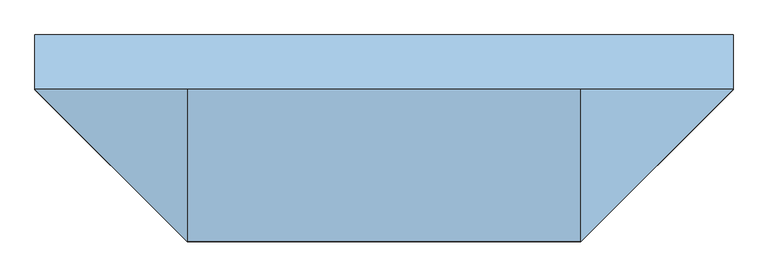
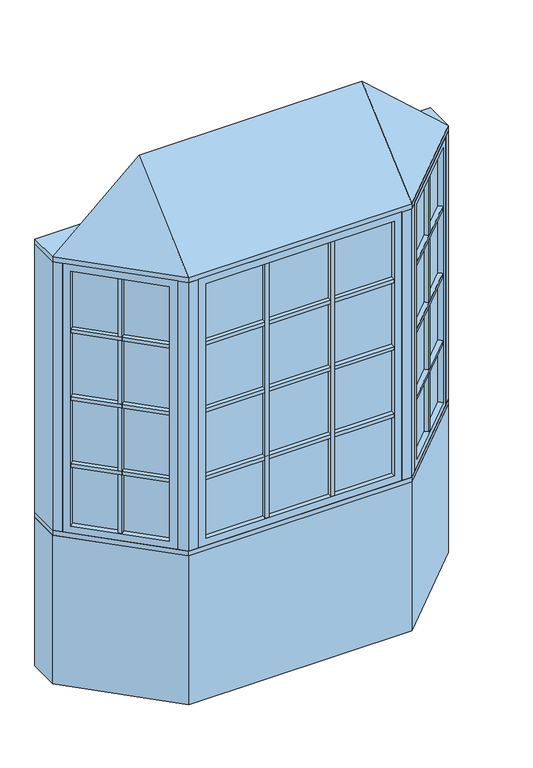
"""IFC4 building model written with IfcOpenShell, lengths in millimetres: window geometry, Pollard_Windows_Tudor Casement Bows and Bays : AML-BAY 45 AFR0614-08-500_GC."""

from ifc_helpers import new_model, si_unit, frame, origin, origin_with_axes, place, context, project, spatial, polyline, outline, extrude, faceted_brep, source, transform, mapped, element, save


def window_5c7470a3(model_context):
    return source(origin(), model_context, "Body", "SolidModel", [
        extrude(outline(polyline([(609.3614193, -437.1108753), (593.8050701, -421.5545261), (901.616171, -113.7434252), (917.1725202, -129.2997743), (609.3614193, -437.1108753)])), frame((0.0, 0.0, 1490.998), z_axis=(0.0, 0.0, 1.0), x_axis=(1.0, 0.0, 0.0)), (0.0, 0.0, 1.0), 18.0),
        extrude(outline(polyline([(590.2129677, -417.9624236), (574.6566185, -402.4060744), (882.4677194, -94.5949735), (898.0240686, -110.1513227), (590.2129677, -417.9624236)])), frame((0.0, 0.0, 1490.998), z_axis=(0.0, 0.0, 1.0), x_axis=(1.0, 0.0, 0.0)), (0.0, 0.0, 1.0), 18.0),
        extrude(outline(polyline([(609.3614193, -437.1108753), (593.8050701, -421.5545261), (901.616171, -113.7434252), (917.1725202, -129.2997743), (609.3614193, -437.1108753)])), frame((0.0, 0.0, 1140.998), z_axis=(0.0, 0.0, 1.0), x_axis=(1.0, 0.0, 0.0)), (0.0, 0.0, 1.0), 18.0),
        extrude(outline(polyline([(590.2129677, -417.9624236), (574.6566185, -402.4060744), (882.4677194, -94.5949735), (898.0240686, -110.1513227), (590.2129677, -417.9624236)])), frame((0.0, 0.0, 1140.998), z_axis=(0.0, 0.0, 1.0), x_axis=(1.0, 0.0, 0.0)), (0.0, 0.0, 1.0), 18.0),
        extrude(outline(polyline([(609.3614193, -437.1108753), (593.8050701, -421.5545261), (901.616171, -113.7434252), (917.1725202, -129.2997743), (609.3614193, -437.1108753)])), frame((0.0, 0.0, 1490.998), z_axis=(0.0, 0.0, 1.0), x_axis=(1.0, 0.0, 0.0)), (0.0, 0.0, 1.0), 18.0),
        extrude(outline(polyline([(590.2129677, -417.9624236), (574.6566185, -402.4060744), (882.4677194, -94.5949735), (898.0240686, -110.1513227), (590.2129677, -417.9624236)])), frame((0.0, 0.0, 1490.998), z_axis=(0.0, 0.0, 1.0), x_axis=(1.0, 0.0, 0.0)), (0.0, 0.0, 1.0), 18.0),
        extrude(outline(polyline([(609.3614193, -437.1108753), (593.8050701, -421.5545261), (901.616171, -113.7434252), (917.1725202, -129.2997743), (609.3614193, -437.1108753)])), frame((0.0, 0.0, 1490.998), z_axis=(0.0, 0.0, 1.0), x_axis=(1.0, 0.0, 0.0)), (0.0, 0.0, 1.0), 18.0),
        extrude(outline(polyline([(590.2129677, -417.9624236), (574.6566185, -402.4060744), (882.4677194, -94.5949735), (898.0240686, -110.1513227), (590.2129677, -417.9624236)])), frame((0.0, 0.0, 1490.998), z_axis=(0.0, 0.0, 1.0), x_axis=(1.0, 0.0, 0.0)), (0.0, 0.0, 1.0), 18.0),
        extrude(outline(polyline([(609.3614193, -437.1108753), (593.8050701, -421.5545261), (901.616171, -113.7434252), (917.1725202, -129.2997743), (609.3614193, -437.1108753)])), frame((0.0, 0.0, 1840.998), z_axis=(0.0, 0.0, 1.0), x_axis=(1.0, 0.0, 0.0)), (0.0, 0.0, 1.0), 18.0),
        extrude(outline(polyline([(590.2129677, -417.9624236), (574.6566185, -402.4060744), (882.4677194, -94.5949735), (898.0240686, -110.1513227), (590.2129677, -417.9624236)])), frame((0.0, 0.0, 1840.998), z_axis=(0.0, 0.0, 1.0), x_axis=(1.0, 0.0, 0.0)), (0.0, 0.0, 1.0), 18.0),
        extrude(outline(polyline([(754.0745816, -261.2850146), (769.6309308, -276.8413638), (756.9030087, -289.5692858), (741.3466595, -274.0129366), (754.0745816, -261.2850146)])), frame((0.0, 0.0, 835.8628), z_axis=(0.0, 0.0, 1.0), x_axis=(1.0, 0.0, 0.0)), (0.0, 0.0, 1.0), 1328.2704),
        extrude(outline(polyline([(750.4824791, -257.6929121), (737.7545571, -270.4208342), (722.1982079, -254.864485), (734.92613, -242.1365629), (750.4824791, -257.6929121)])), frame((0.0, 0.0, 835.8628), z_axis=(0.0, 0.0, 1.0), x_axis=(1.0, 0.0, 0.0)), (0.0, 0.0, 1.0), 1328.2704),
        extrude(outline(polyline([(910.5964271, -104.763169), (584.824814, -430.5347822), (581.2327115, -426.9426797), (907.0043247, -101.1710666), (910.5964271, -104.763169)])), frame((0.0, 0.0, 823.1628), z_axis=(0.0, 0.0, 1.0), x_axis=(1.0, 0.0, 0.0)), (0.0, 0.0, 1.0), 1353.6704),
        faceted_brep([(901.616171, -113.7434252, 835.8628), (919.5766833, -131.7039374, 835.8628), (919.5766833, -131.7039374, 2164.1332), (901.616171, -113.7434252, 2164.1332), (907.0043247, -101.1710666, 823.1628), (910.5964271, -104.763169, 823.1628), (910.5964271, -104.763169, 2176.8332), (907.0043247, -101.1710666, 2176.8332), (880.0635563, -92.1908105, 835.8628), (898.0240686, -110.1513227, 835.8628), (898.0240686, -110.1513227, 2164.1332), (880.0635563, -92.1908105, 2164.1332), (944.9369265, -106.3436941, 799.998), (905.4237996, -66.8305672, 799.998), (905.4237996, -66.8305672, 2199.998), (944.9369265, -106.3436941, 2199.998), (611.7655823, -439.5150383, 2164.1332), (593.8050701, -421.5545261, 2164.1332), (584.824814, -430.5347822, 2176.8332), (581.2327115, -426.9426797, 2176.8332), (590.2129677, -417.9624236, 2164.1332), (572.2524554, -400.0019114, 2164.1332), (546.8922121, -425.3621547, 2199.998), (586.4053391, -464.8752816, 2199.998), (611.7655823, -439.5150383, 835.8628), (593.8050701, -421.5545261, 835.8628), (584.824814, -430.5347822, 823.1628), (581.2327115, -426.9426797, 823.1628), (590.2129677, -417.9624236, 835.8628), (572.2524554, -400.0019114, 835.8628), (546.8922121, -425.3621547, 799.998), (586.4053391, -464.8752816, 799.998)], [[[0, 1, 2, 3]], [[4, 5, 6, 7]], [[8, 9, 10, 11]], [[12, 13, 14, 15]], [[3, 2, 16, 17]], [[7, 6, 18, 19]], [[11, 10, 20, 21]], [[15, 14, 22, 23]], [[17, 16, 24, 25]], [[19, 18, 26, 27]], [[21, 20, 28, 29]], [[23, 22, 30, 31]], [[25, 24, 1, 0]], [[5, 26, 18, 6], [3, 17, 25, 0]], [[27, 26, 5, 4]], [[7, 19, 27, 4], [9, 28, 20, 10]], [[29, 28, 9, 8]], [[13, 30, 22, 14], [11, 21, 29, 8]], [[31, 30, 13, 12]], [[15, 23, 31, 12], [1, 24, 16, 2]]]),
        extrude(outline(polyline([(171.2952, -474.8306207), (171.2952, -496.8306207), (153.2952, -496.8306207), (153.2952, -474.8306207), (171.2952, -474.8306207)])), frame((0.0, 0.0, 835.8628), z_axis=(0.0, 0.0, 1.0), x_axis=(1.0, 0.0, 0.0)), (0.0, 0.0, 1.0), 1328.2704),
        extrude(outline(polyline([(171.2952, -469.7506207), (153.2952, -469.7506207), (153.2952, -447.7506207), (171.2952, -447.7506207), (171.2952, -469.7506207)])), frame((0.0, 0.0, 835.8628), z_axis=(0.0, 0.0, 1.0), x_axis=(1.0, 0.0, 0.0)), (0.0, 0.0, 1.0), 1328.2704),
        extrude(outline(polyline([(-153.2952, -474.8306207), (-153.2952, -496.8306207), (-171.2952, -496.8306207), (-171.2952, -474.8306207), (-153.2952, -474.8306207)])), frame((0.0, 0.0, 835.8628), z_axis=(0.0, 0.0, 1.0), x_axis=(1.0, 0.0, 0.0)), (0.0, 0.0, 1.0), 1328.2704),
        extrude(outline(polyline([(-153.2952, -469.7506207), (-171.2952, -469.7506207), (-171.2952, -447.7506207), (-153.2952, -447.7506207), (-153.2952, -469.7506207)])), frame((0.0, 0.0, 835.8628), z_axis=(0.0, 0.0, 1.0), x_axis=(1.0, 0.0, 0.0)), (0.0, 0.0, 1.0), 1328.2704),
        extrude(outline(polyline([(-465.1852, -496.8306207), (-465.1852, -474.8306207), (465.1852, -474.8306207), (465.1852, -496.8306207), (-465.1852, -496.8306207)])), frame((0.0, 0.0, 1140.998), z_axis=(0.0, 0.0, 1.0), x_axis=(1.0, 0.0, 0.0)), (0.0, 0.0, 1.0), 18.0),
        extrude(outline(polyline([(-465.1852, -469.7506207), (-465.1852, -447.7506207), (465.1852, -447.7506207), (465.1852, -469.7506207), (-465.1852, -469.7506207)])), frame((0.0, 0.0, 1140.998), z_axis=(0.0, 0.0, 1.0), x_axis=(1.0, 0.0, 0.0)), (0.0, 0.0, 1.0), 18.0),
        extrude(outline(polyline([(-465.1852, -496.8306207), (-465.1852, -474.8306207), (465.1852, -474.8306207), (465.1852, -496.8306207), (-465.1852, -496.8306207)])), frame((0.0, 0.0, 1490.998), z_axis=(0.0, 0.0, 1.0), x_axis=(1.0, 0.0, 0.0)), (0.0, 0.0, 1.0), 18.0),
        extrude(outline(polyline([(-465.1852, -469.7506207), (-465.1852, -447.7506207), (465.1852, -447.7506207), (465.1852, -469.7506207), (-465.1852, -469.7506207)])), frame((0.0, 0.0, 1490.998), z_axis=(0.0, 0.0, 1.0), x_axis=(1.0, 0.0, 0.0)), (0.0, 0.0, 1.0), 18.0),
        extrude(outline(polyline([(-465.1852, -496.8306207), (-465.1852, -474.8306207), (465.1852, -474.8306207), (465.1852, -496.8306207), (-465.1852, -496.8306207)])), frame((0.0, 0.0, 1490.998), z_axis=(0.0, 0.0, 1.0), x_axis=(1.0, 0.0, 0.0)), (0.0, 0.0, 1.0), 18.0),
        extrude(outline(polyline([(-465.1852, -469.7506207), (-465.1852, -447.7506207), (465.1852, -447.7506207), (465.1852, -469.7506207), (-465.1852, -469.7506207)])), frame((0.0, 0.0, 1490.998), z_axis=(0.0, 0.0, 1.0), x_axis=(1.0, 0.0, 0.0)), (0.0, 0.0, 1.0), 18.0),
        extrude(outline(polyline([(-465.1852, -496.8306207), (-465.1852, -474.8306207), (465.1852, -474.8306207), (465.1852, -496.8306207), (-465.1852, -496.8306207)])), frame((0.0, 0.0, 1490.998), z_axis=(0.0, 0.0, 1.0), x_axis=(1.0, 0.0, 0.0)), (0.0, 0.0, 1.0), 18.0),
        extrude(outline(polyline([(-465.1852, -469.7506207), (-465.1852, -447.7506207), (465.1852, -447.7506207), (465.1852, -469.7506207), (-465.1852, -469.7506207)])), frame((0.0, 0.0, 1490.998), z_axis=(0.0, 0.0, 1.0), x_axis=(1.0, 0.0, 0.0)), (0.0, 0.0, 1.0), 18.0),
        extrude(outline(polyline([(-917.1725202, -129.2997743), (-901.616171, -113.7434252), (-593.8050701, -421.5545261), (-609.3614193, -437.1108753), (-917.1725202, -129.2997743)])), frame((0.0, 0.0, 1140.998), z_axis=(0.0, 0.0, 1.0), x_axis=(1.0, 0.0, 0.0)), (0.0, 0.0, 1.0), 18.0),
        extrude(outline(polyline([(-898.0240686, -110.1513227), (-882.4677194, -94.5949735), (-574.6566185, -402.4060744), (-590.2129677, -417.9624236), (-898.0240686, -110.1513227)])), frame((0.0, 0.0, 1140.998), z_axis=(0.0, 0.0, 1.0), x_axis=(1.0, 0.0, 0.0)), (0.0, 0.0, 1.0), 18.0),
        extrude(outline(polyline([(-917.1725202, -129.2997743), (-901.616171, -113.7434252), (-593.8050701, -421.5545261), (-609.3614193, -437.1108753), (-917.1725202, -129.2997743)])), frame((0.0, 0.0, 1490.998), z_axis=(0.0, 0.0, 1.0), x_axis=(1.0, 0.0, 0.0)), (0.0, 0.0, 1.0), 18.0),
        extrude(outline(polyline([(-898.0240686, -110.1513227), (-882.4677194, -94.5949735), (-574.6566185, -402.4060744), (-590.2129677, -417.9624236), (-898.0240686, -110.1513227)])), frame((0.0, 0.0, 1490.998), z_axis=(0.0, 0.0, 1.0), x_axis=(1.0, 0.0, 0.0)), (0.0, 0.0, 1.0), 18.0),
        extrude(outline(polyline([(-917.1725202, -129.2997743), (-901.616171, -113.7434252), (-593.8050701, -421.5545261), (-609.3614193, -437.1108753), (-917.1725202, -129.2997743)])), frame((0.0, 0.0, 1490.998), z_axis=(0.0, 0.0, 1.0), x_axis=(1.0, 0.0, 0.0)), (0.0, 0.0, 1.0), 18.0),
        extrude(outline(polyline([(-898.0240686, -110.1513227), (-882.4677194, -94.5949735), (-574.6566185, -402.4060744), (-590.2129677, -417.9624236), (-898.0240686, -110.1513227)])), frame((0.0, 0.0, 1490.998), z_axis=(0.0, 0.0, 1.0), x_axis=(1.0, 0.0, 0.0)), (0.0, 0.0, 1.0), 18.0),
        extrude(outline(polyline([(-917.1725202, -129.2997743), (-901.616171, -113.7434252), (-593.8050701, -421.5545261), (-609.3614193, -437.1108753), (-917.1725202, -129.2997743)])), frame((0.0, 0.0, 1490.998), z_axis=(0.0, 0.0, 1.0), x_axis=(1.0, 0.0, 0.0)), (0.0, 0.0, 1.0), 18.0),
        extrude(outline(polyline([(-898.0240686, -110.1513227), (-882.4677194, -94.5949735), (-574.6566185, -402.4060744), (-590.2129677, -417.9624236), (-898.0240686, -110.1513227)])), frame((0.0, 0.0, 1490.998), z_axis=(0.0, 0.0, 1.0), x_axis=(1.0, 0.0, 0.0)), (0.0, 0.0, 1.0), 18.0),
        extrude(outline(polyline([(-917.1725202, -129.2997743), (-901.616171, -113.7434252), (-593.8050701, -421.5545261), (-609.3614193, -437.1108753), (-917.1725202, -129.2997743)])), frame((0.0, 0.0, 1840.998), z_axis=(0.0, 0.0, 1.0), x_axis=(1.0, 0.0, 0.0)), (0.0, 0.0, 1.0), 18.0),
        extrude(outline(polyline([(-898.0240686, -110.1513227), (-882.4677194, -94.5949735), (-574.6566185, -402.4060744), (-590.2129677, -417.9624236), (-898.0240686, -110.1513227)])), frame((0.0, 0.0, 1840.998), z_axis=(0.0, 0.0, 1.0), x_axis=(1.0, 0.0, 0.0)), (0.0, 0.0, 1.0), 18.0),
        extrude(outline(polyline([(-465.1852, -496.8306207), (-465.1852, -474.8306207), (465.1852, -474.8306207), (465.1852, -496.8306207), (-465.1852, -496.8306207)])), frame((0.0, 0.0, 1840.998), z_axis=(0.0, 0.0, 1.0), x_axis=(1.0, 0.0, 0.0)), (0.0, 0.0, 1.0), 18.0),
        extrude(outline(polyline([(-465.1852, -469.7506207), (-465.1852, -447.7506207), (465.1852, -447.7506207), (465.1852, -469.7506207), (-465.1852, -469.7506207)])), frame((0.0, 0.0, 1840.998), z_axis=(0.0, 0.0, 1.0), x_axis=(1.0, 0.0, 0.0)), (0.0, 0.0, 1.0), 18.0),
        extrude(outline(polyline([(-741.3466595, -274.0129366), (-756.9030087, -289.5692858), (-769.6309308, -276.8413638), (-754.0745816, -261.2850146), (-741.3466595, -274.0129366)])), frame((0.0, 0.0, 835.8628), z_axis=(0.0, 0.0, 1.0), x_axis=(1.0, 0.0, 0.0)), (0.0, 0.0, 1.0), 1328.2704),
        extrude(outline(polyline([(-737.7545571, -270.4208342), (-750.4824791, -257.6929121), (-734.92613, -242.1365629), (-722.1982079, -254.864485), (-737.7545571, -270.4208342)])), frame((0.0, 0.0, 835.8628), z_axis=(0.0, 0.0, 1.0), x_axis=(1.0, 0.0, 0.0)), (0.0, 0.0, 1.0), 1328.2704),
        extrude(outline(polyline([(-584.824814, -430.5347822), (-910.5964271, -104.763169), (-907.0043247, -101.1710666), (-581.2327115, -426.9426797), (-584.824814, -430.5347822)])), frame((0.0, 0.0, 823.1628), z_axis=(0.0, 0.0, 1.0), x_axis=(1.0, 0.0, 0.0)), (0.0, 0.0, 1.0), 1353.6704),
        faceted_brep([(-590.2129677, -417.9624236, 2164.1332), (-572.2524554, -400.0019114, 2164.1332), (-572.2524554, -400.0019114, 835.8628), (-590.2129677, -417.9624236, 835.8628), (-584.824814, -430.5347822, 2176.8332), (-581.2327115, -426.9426797, 2176.8332), (-581.2327115, -426.9426797, 823.1628), (-584.824814, -430.5347822, 823.1628), (-611.7655823, -439.5150383, 2164.1332), (-593.8050701, -421.5545261, 2164.1332), (-593.8050701, -421.5545261, 835.8628), (-611.7655823, -439.5150383, 835.8628), (-546.8922121, -425.3621547, 2199.998), (-586.4053391, -464.8752816, 2199.998), (-586.4053391, -464.8752816, 799.998), (-546.8922121, -425.3621547, 799.998), (-880.0635563, -92.1908105, 835.8628), (-898.0240686, -110.1513227, 835.8628), (-907.0043247, -101.1710666, 823.1628), (-910.5964271, -104.763169, 823.1628), (-901.616171, -113.7434252, 835.8628), (-919.5766833, -131.7039374, 835.8628), (-944.9369265, -106.3436941, 799.998), (-905.4237996, -66.8305672, 799.998), (-880.0635563, -92.1908105, 2164.1332), (-898.0240686, -110.1513227, 2164.1332), (-907.0043247, -101.1710666, 2176.8332), (-910.5964271, -104.763169, 2176.8332), (-901.616171, -113.7434252, 2164.1332), (-919.5766833, -131.7039374, 2164.1332), (-944.9369265, -106.3436941, 2199.998), (-905.4237996, -66.8305672, 2199.998)], [[[0, 1, 2, 3]], [[4, 5, 6, 7]], [[8, 9, 10, 11]], [[12, 13, 14, 15]], [[3, 2, 16, 17]], [[7, 6, 18, 19]], [[11, 10, 20, 21]], [[15, 14, 22, 23]], [[17, 16, 24, 25]], [[19, 18, 26, 27]], [[21, 20, 28, 29]], [[23, 22, 30, 31]], [[15, 23, 31, 12], [1, 24, 16, 2]], [[25, 24, 1, 0]], [[5, 26, 18, 6], [3, 17, 25, 0]], [[27, 26, 5, 4]], [[7, 19, 27, 4], [9, 28, 20, 10]], [[29, 28, 9, 8]], [[13, 30, 22, 14], [11, 21, 29, 8]], [[31, 30, 13, 12]]]),
        extrude(outline(polyline([(477.8852, -474.8306207), (-477.8852, -474.8306207), (-477.8852, -469.7506207), (477.8852, -469.7506207), (477.8852, -474.8306207)])), frame((0.0, 0.0, 823.1628), z_axis=(0.0, 0.0, 1.0), x_axis=(1.0, 0.0, 0.0)), (0.0, 0.0, 1.0), 1353.6704),
        faceted_brep([(465.1852, -474.8306207, 835.8628), (465.1852, -500.2306207, 835.8628), (465.1852, -500.2306207, 2164.1332), (465.1852, -474.8306207, 2164.1332), (477.8852, -469.7506207, 823.1628), (477.8852, -474.8306207, 823.1628), (477.8852, -474.8306207, 2176.8332), (477.8852, -469.7506207, 2176.8332), (465.1852, -444.3506207, 835.8628), (465.1852, -469.7506207, 835.8628), (465.1852, -469.7506207, 2164.1332), (465.1852, -444.3506207, 2164.1332), (501.05, -500.2306207, 799.998), (501.05, -444.3506207, 799.998), (501.05, -444.3506207, 2199.998), (501.05, -500.2306207, 2199.998), (-465.1852, -500.2306207, 2164.1332), (-465.1852, -474.8306207, 2164.1332), (-477.8852, -474.8306207, 2176.8332), (-477.8852, -469.7506207, 2176.8332), (-465.1852, -469.7506207, 2164.1332), (-465.1852, -444.3506207, 2164.1332), (-501.05, -444.3506207, 2199.998), (-501.05, -500.2306207, 2199.998), (-465.1852, -500.2306207, 835.8628), (-465.1852, -474.8306207, 835.8628), (-477.8852, -474.8306207, 823.1628), (-477.8852, -469.7506207, 823.1628), (-465.1852, -469.7506207, 835.8628), (-465.1852, -444.3506207, 835.8628), (-501.05, -444.3506207, 799.998), (-501.05, -500.2306207, 799.998)], [[[0, 1, 2, 3]], [[4, 5, 6, 7]], [[8, 9, 10, 11]], [[12, 13, 14, 15]], [[3, 2, 16, 17]], [[7, 6, 18, 19]], [[11, 10, 20, 21]], [[15, 14, 22, 23]], [[17, 16, 24, 25]], [[19, 18, 26, 27]], [[21, 20, 28, 29]], [[23, 22, 30, 31]], [[15, 23, 31, 12], [1, 24, 16, 2]], [[25, 24, 1, 0]], [[5, 26, 18, 6], [3, 17, 25, 0]], [[27, 26, 5, 4]], [[7, 19, 27, 4], [9, 28, 20, 10]], [[29, 28, 9, 8]], [[13, 30, 22, 14], [11, 21, 29, 8]], [[31, 30, 13, 12]]]),
        faceted_brep([(976.5, -74.7806207, 2225.398), (551.05, -500.2306207, 2225.398), (-551.05, -500.2306207, 2225.398), (-976.5, -74.7806207, 2225.398), (-551.05, -74.7806207, 2606.398), (551.05, -74.7806207, 2606.398)], [[[0, 1, 2, 3]], [[3, 2, 4]], [[2, 1, 5, 4]], [[1, 0, 5]], [[0, 3, 4, 5]]]),
        extrude(outline(polyline([(-976.5, 77.6193793), (976.5, 77.6193793), (976.5, -74.7806207), (551.05, -500.2306207), (-551.05, -500.2306207), (-976.5, -74.7806207), (-976.5, 77.6193793)])), frame((0.0, 0.0, 2199.998), z_axis=(0.0, 0.0, 1.0), x_axis=(1.0, 0.0, 0.0)), (0.0, 0.0, 1.0), 25.4),
        extrude(outline(polyline([(-976.5, -74.7806207), (-976.5, 77.6193793), (-913.3738531, 77.6193793), (-913.3738531, -74.7806207), (-944.9369265, -106.3436941), (-976.5, -74.7806207)])), frame((0.0, 0.0, 799.998), z_axis=(0.0, 0.0, 1.0), x_axis=(1.0, 0.0, 0.0)), (0.0, 0.0, 1.0), 1400.0),
        extrude(outline(polyline([(976.5, 77.6193793), (976.5, -74.7806207), (944.9369265, -106.3436941), (913.3738531, -74.7806207), (913.3738531, 77.6193793), (976.5, 77.6193793)])), frame((0.0, 0.0, 799.998), z_axis=(0.0, 0.0, 1.0), x_axis=(1.0, 0.0, 0.0)), (0.0, 0.0, 1.0), 1400.0),
        extrude(outline(polyline([(551.05, -500.2306207), (501.05, -500.2306207), (501.05, -450.2306207), (530.3393219, -450.2306207), (551.05, -429.5199425), (586.4053391, -464.8752816), (551.05, -500.2306207)])), frame((0.0, 0.0, 799.998), z_axis=(0.0, 0.0, 1.0), x_axis=(1.0, 0.0, 0.0)), (0.0, 0.0, 1.0), 1400.0),
        extrude(outline(polyline([(-551.05, -500.2306207), (-586.4053391, -464.8752816), (-551.05, -429.5199425), (-530.3393219, -450.2306207), (-501.05, -450.2306207), (-501.05, -500.2306207), (-551.05, -500.2306207)])), frame((0.0, 0.0, 799.998), z_axis=(0.0, 0.0, 1.0), x_axis=(1.0, 0.0, 0.0)), (0.0, 0.0, 1.0), 1400.0),
        extrude(outline(polyline([(-551.05, -500.2306207), (-976.5, -74.7806207), (-976.5, 77.6193793), (-913.3738531, 77.6193793), (-487.9238531, -347.8306207), (487.9238531, -347.8306207), (913.3738531, 77.6193793), (976.5, 77.6193793), (976.5, -74.7806207), (551.05, -500.2306207), (-551.05, -500.2306207)])), frame((0.0, 0.0, 774.598), z_axis=(0.0, 0.0, 1.0), x_axis=(1.0, 0.0, 0.0)), (0.0, 0.0, 1.0), 25.4),
        extrude(outline(polyline([(-976.5, -74.7806207), (-976.5, 77.6193793), (-913.3738531, 77.6193793), (-487.9238531, -347.8306207), (487.9238531, -347.8306207), (913.3738531, 77.6193793), (976.5, 77.6193793), (976.5, -74.7806207), (551.05, -500.2306207), (-551.05, -500.2306207), (-976.5, -74.7806207)])), origin_with_axes(), (0.0, 0.0, 1.0), 774.598),
    ])


if __name__ == "__main__":
    model = new_model("IFC4")
    model_context = context("Model", 3, world=origin())
    ifc_project = project(units=[si_unit("LENGTHUNIT", "METRE", prefix="MILLI")], contexts=[model_context])
    site = spatial("IfcSite", under=ifc_project)
    building = spatial("IfcBuilding", under=site)
    placement = place(None, origin())
    window_shape = window_5c7470a3(model_context)
    element("IfcWindow", 1, ObjectType="Pollard_Windows_Tudor Casement Bows and Bays : AML-BAY 45 AFR0614-08-500_GC", at=placement, inside=building, context=model_context, shape_type="MappedRepresentation", body=[
        mapped(window_shape, transform((0.0, 0.0, 0.0), x_axis=(1.0, 0.0, 0.0), y_axis=(0.0, 1.0, 0.0), z_axis=(0.0, 0.0, 1.0))),
    ])
    save(model, "model.ifc")
